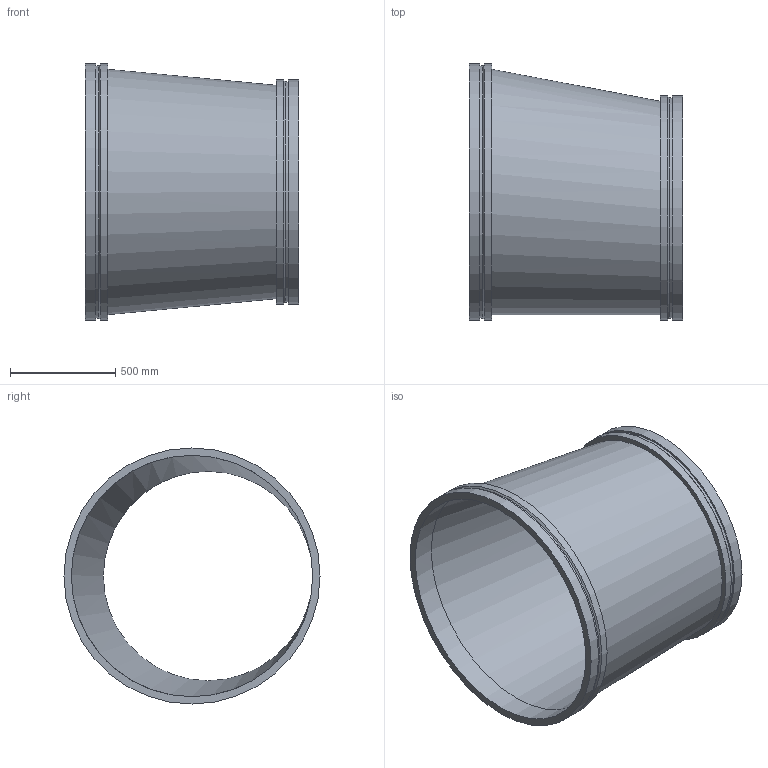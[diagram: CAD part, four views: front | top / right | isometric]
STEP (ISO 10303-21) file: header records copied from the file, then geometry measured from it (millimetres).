
FILE_DESCRIPTION(/* description */ ('VIC REDUCER ECCENTRIC No W51-VR','CAx-IF Rec.Pracs.---Representation and Presentation of Product Manufacturing Information (PMI)---4.0---2014-10-13'),/* implementation_level */ '2;1');
FILE_NAME(/* name */ 'C:\Users\kkamble\AppData\Roaming\Autodesk\ApplicationPlugins\Back Up\Victaulic_Vic-Ring_Reducer Eccentric_No W51 VR (AGR)\Victaulic_Vic-Ring_Reducer Eccentric_No W51 VR (AGR)_46.0x40.0 (1150x1000).stp',/* time_stamp */ '2020-09-10T11:51:24+05:00',/* author */ ('CONSTRUCTION PIPING SERVICES'),/* organization */ ('Victaulic'),/* preprocessor_version */ 'ST-DEVELOPER v17.2',/* originating_system */ 'Autodesk Inventor 2019',/* authorisation */ '');
FILE_SCHEMA (('AP242_MANAGED_MODEL_BASED_3D_ENGINEERING_MIM_LF { 1 0 10303 442 1 1 4 }'));
Length unit declared in the file: inch
Products named in the file (1): W51 VR-46.0x40.0
Bounding box: 1016 x 1219.2 x 1219.2 mm (x, y, z)
Volume: 51235443.7 mm3; surface area: 7485598.7 mm2
Topology: 1 solids, 1 shells, 18 faces, 49 edges, 37 vertices
Faces by surface type: cylinder 8, plane 6, cone 2, bspline 2
Full cylindrical faces by diameter (mm): 996.95 x1, 1050.925 x1, 1066.8 x2, 1149.35 x1, 1203.325 x1, 1219.2 x2
Entity records: 792 total; most frequent: CARTESIAN_POINT 158, DIRECTION 144, ORIENTED_EDGE 98, AXIS2_PLACEMENT_3D 67, EDGE_CURVE 49, CIRCLE 37, VERTEX_POINT 37, EDGE_LOOP 24
